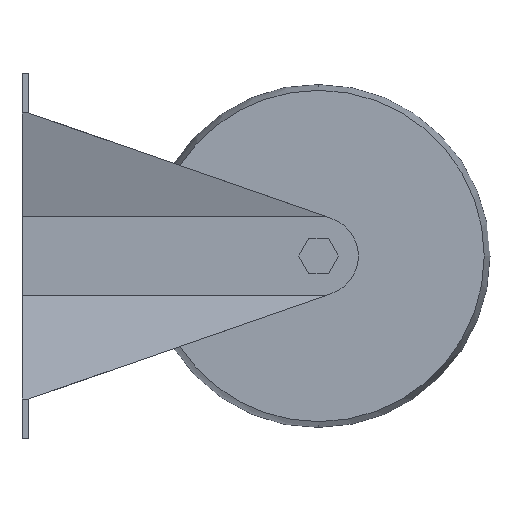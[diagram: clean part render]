
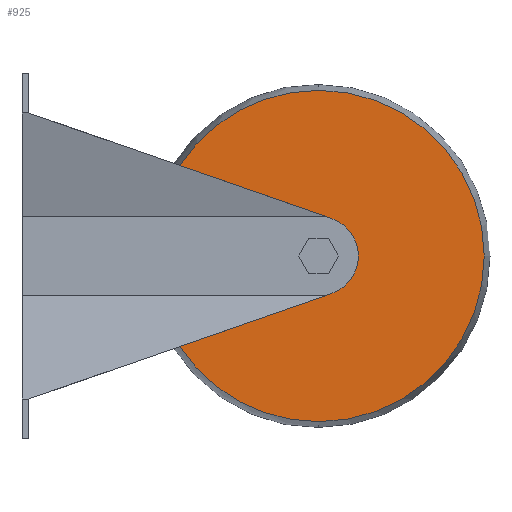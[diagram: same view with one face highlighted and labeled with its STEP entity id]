
A CAD part, left-side view. The second image highlights one B-rep face of the part: STEP entity #925.
In plain terms, the highlighted planar face has unit normal (-1, 0, 0).
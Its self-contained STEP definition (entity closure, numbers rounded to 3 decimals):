
#44 = AXIS2_PLACEMENT_3D ( 'NONE', #754, #866, #746 ) ;
#52 = VECTOR ( 'NONE', #178, 1000. ) ;
#99 = ORIENTED_EDGE ( 'NONE', *, *, #937, .T. ) ;
#101 = CARTESIAN_POINT ( 'NONE',  ( -19., -112., 0. ) ) ;
#129 = DIRECTION ( 'NONE',  ( 0., 0., 1. ) ) ;
#134 = DIRECTION ( 'NONE',  ( 1., 0., 0. ) ) ;
#148 = CARTESIAN_POINT ( 'NONE',  ( -19., -116.935, 14.165 ) ) ;
#152 = VERTEX_POINT ( 'NONE', #1174 ) ;
#163 = EDGE_CURVE ( 'NONE', #285, #152, #479, .T. ) ;
#178 = DIRECTION ( 'NONE',  ( 0., 0.944, -0.329 ) ) ;
#207 = PLANE ( 'NONE',  #524 ) ;
#224 = VERTEX_POINT ( 'NONE', #1522 ) ;
#241 = EDGE_CURVE ( 'NONE', #152, #952, #530, .T. ) ;
#242 = CIRCLE ( 'NONE', #397, 62.553 ) ;
#244 = DIRECTION ( 'NONE',  ( -1., 0., 0. ) ) ;
#285 = VERTEX_POINT ( 'NONE', #1044 ) ;
#360 = ORIENTED_EDGE ( 'NONE', *, *, #748, .T. ) ;
#397 = AXIS2_PLACEMENT_3D ( 'NONE', #1329, #1318, #129 ) ;
#431 = ORIENTED_EDGE ( 'NONE', *, *, #1231, .T. ) ;
#443 = CARTESIAN_POINT ( 'NONE',  ( -19., -112., 0. ) ) ;
#479 = CIRCLE ( 'NONE', #44, 15. ) ;
#493 = DIRECTION ( 'NONE',  ( 0., 0., -1. ) ) ;
#524 = AXIS2_PLACEMENT_3D ( 'NONE', #101, #134, #493 ) ;
#530 = LINE ( 'NONE', #705, #52 ) ;
#546 = AXIS2_PLACEMENT_3D ( 'NONE', #653, #244, #1498 ) ;
#576 = DIRECTION ( 'NONE',  ( 0., 0., 1. ) ) ;
#646 = ORIENTED_EDGE ( 'NONE', *, *, #1149, .T. ) ;
#653 = CARTESIAN_POINT ( 'NONE',  ( -19., -112., 0. ) ) ;
#687 = FACE_OUTER_BOUND ( 'NONE', #1020, .T. ) ;
#690 = ORIENTED_EDGE ( 'NONE', *, *, #163, .T. ) ;
#705 = CARTESIAN_POINT ( 'NONE',  ( -19., -2.6, -54. ) ) ;
#743 = CARTESIAN_POINT ( 'NONE',  ( -19., -59.588, -34.145 ) ) ;
#746 = DIRECTION ( 'NONE',  ( 0., 0., -1. ) ) ;
#748 = EDGE_CURVE ( 'NONE', #952, #224, #1240, .T. ) ;
#751 = VERTEX_POINT ( 'NONE', #1134 ) ;
#754 = CARTESIAN_POINT ( 'NONE',  ( -19., -112., 0. ) ) ;
#798 = CIRCLE ( 'NONE', #1019, 62.553 ) ;
#805 = DIRECTION ( 'NONE',  ( -1., 0., 0. ) ) ;
#816 = ORIENTED_EDGE ( 'NONE', *, *, #241, .T. ) ;
#866 = DIRECTION ( 'NONE',  ( 1., 0., 0. ) ) ;
#893 = VERTEX_POINT ( 'NONE', #1294 ) ;
#925 = ADVANCED_FACE ( 'NONE', ( #687 ), #207, .F. ) ;
#937 = EDGE_CURVE ( 'NONE', #751, #285, #1212, .T. ) ;
#952 = VERTEX_POINT ( 'NONE', #743 ) ;
#1019 = AXIS2_PLACEMENT_3D ( 'NONE', #443, #805, #576 ) ;
#1020 = EDGE_LOOP ( 'NONE', ( #816, #360, #431, #646, #99, #690 ) ) ;
#1044 = CARTESIAN_POINT ( 'NONE',  ( -19., -116.935, 14.165 ) ) ;
#1111 = DIRECTION ( 'NONE',  ( 0., -0.944, -0.329 ) ) ;
#1134 = CARTESIAN_POINT ( 'NONE',  ( -19., -59.588, 34.145 ) ) ;
#1149 = EDGE_CURVE ( 'NONE', #893, #751, #798, .T. ) ;
#1174 = CARTESIAN_POINT ( 'NONE',  ( -19., -116.935, -14.165 ) ) ;
#1212 = LINE ( 'NONE', #148, #1229 ) ;
#1229 = VECTOR ( 'NONE', #1111, 1000. ) ;
#1231 = EDGE_CURVE ( 'NONE', #224, #893, #242, .T. ) ;
#1240 = CIRCLE ( 'NONE', #546, 62.553 ) ;
#1294 = CARTESIAN_POINT ( 'NONE',  ( -19., -112., 62.553 ) ) ;
#1318 = DIRECTION ( 'NONE',  ( -1., 0., 0. ) ) ;
#1329 = CARTESIAN_POINT ( 'NONE',  ( -19., -112., 0. ) ) ;
#1498 = DIRECTION ( 'NONE',  ( 0., 0., 1. ) ) ;
#1522 = CARTESIAN_POINT ( 'NONE',  ( -19., -112., -62.553 ) ) ;
